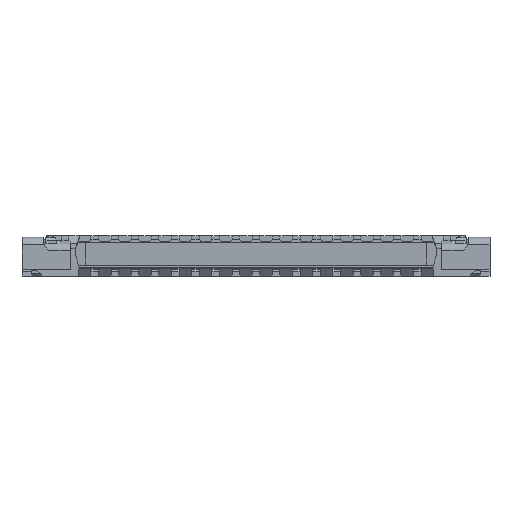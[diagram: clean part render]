
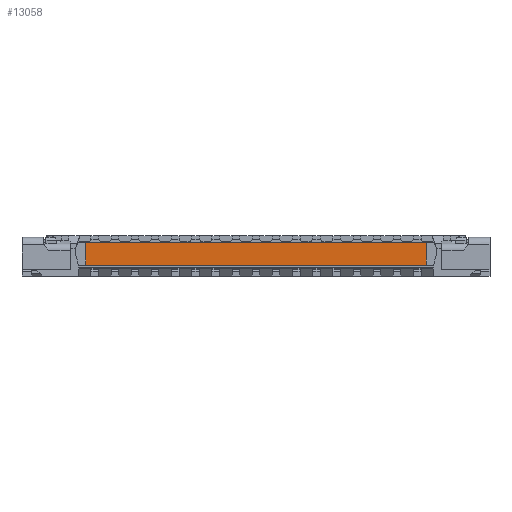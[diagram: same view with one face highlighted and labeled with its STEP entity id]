
A CAD part, top view. The second image highlights one B-rep face of the part: STEP entity #13058.
In plain terms, the highlighted planar face has unit normal (0, 0, 1).
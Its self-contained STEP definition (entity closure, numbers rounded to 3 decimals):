
#1108 = CARTESIAN_POINT ( 'NONE',  ( 0.15, 0.58, 0.99 ) ) ;
#4390 = VECTOR ( 'NONE', #19593, 1000. ) ;
#5256 = CARTESIAN_POINT ( 'NONE',  ( -6.825, 0.19, 0.99 ) ) ;
#5369 = LINE ( 'NONE', #5801, #23503 ) ;
#5707 = EDGE_CURVE ( 'NONE', #13507, #10484, #12359, .T. ) ;
#5801 = CARTESIAN_POINT ( 'NONE',  ( 0.15, 0.19, 0.99 ) ) ;
#6011 = CARTESIAN_POINT ( 'NONE',  ( 0.15, 0.19, 0.99 ) ) ;
#6056 = VERTEX_POINT ( 'NONE', #6011 ) ;
#6316 = EDGE_LOOP ( 'NONE', ( #9229, #12332, #15480, #27907 ) ) ;
#7264 = VERTEX_POINT ( 'NONE', #1108 ) ;
#8483 = CARTESIAN_POINT ( 'NONE',  ( -6.475, 0.58, 0.99 ) ) ;
#8632 = LINE ( 'NONE', #8483, #4390 ) ;
#9019 = VECTOR ( 'NONE', #16356, 1000. ) ;
#9229 = ORIENTED_EDGE ( 'NONE', *, *, #11909, .F. ) ;
#10317 = AXIS2_PLACEMENT_3D ( 'NONE', #24722, #20214, #16122 ) ;
#10484 = VERTEX_POINT ( 'NONE', #22096 ) ;
#11660 = CARTESIAN_POINT ( 'NONE',  ( -5.75, 0.58, 0.99 ) ) ;
#11909 = EDGE_CURVE ( 'NONE', #6056, #10484, #24981, .T. ) ;
#12332 = ORIENTED_EDGE ( 'NONE', *, *, #25586, .F. ) ;
#12359 = LINE ( 'NONE', #25785, #17173 ) ;
#12495 = DIRECTION ( 'NONE',  ( 0., -1., 0. ) ) ;
#13058 = ADVANCED_FACE ( 'NONE', ( #26770 ), #24878, .F. ) ;
#13507 = VERTEX_POINT ( 'NONE', #11660 ) ;
#15480 = ORIENTED_EDGE ( 'NONE', *, *, #26465, .T. ) ;
#16122 = DIRECTION ( 'NONE',  ( -1., 0., 0. ) ) ;
#16356 = DIRECTION ( 'NONE',  ( -1., 0., 0. ) ) ;
#17173 = VECTOR ( 'NONE', #12495, 1000. ) ;
#19593 = DIRECTION ( 'NONE',  ( -1., 0., 0. ) ) ;
#20214 = DIRECTION ( 'NONE',  ( 0., 0., -1. ) ) ;
#22096 = CARTESIAN_POINT ( 'NONE',  ( -5.75, 0.19, 0.99 ) ) ;
#23503 = VECTOR ( 'NONE', #25817, 1000. ) ;
#24722 = CARTESIAN_POINT ( 'NONE',  ( -6.475, 0.17, 0.99 ) ) ;
#24878 = PLANE ( 'NONE',  #10317 ) ;
#24981 = LINE ( 'NONE', #5256, #9019 ) ;
#25586 = EDGE_CURVE ( 'NONE', #7264, #6056, #5369, .T. ) ;
#25785 = CARTESIAN_POINT ( 'NONE',  ( -5.75, 0.19, 0.99 ) ) ;
#25817 = DIRECTION ( 'NONE',  ( 0., -1., 0. ) ) ;
#26465 = EDGE_CURVE ( 'NONE', #7264, #13507, #8632, .T. ) ;
#26770 = FACE_OUTER_BOUND ( 'NONE', #6316, .T. ) ;
#27907 = ORIENTED_EDGE ( 'NONE', *, *, #5707, .T. ) ;
